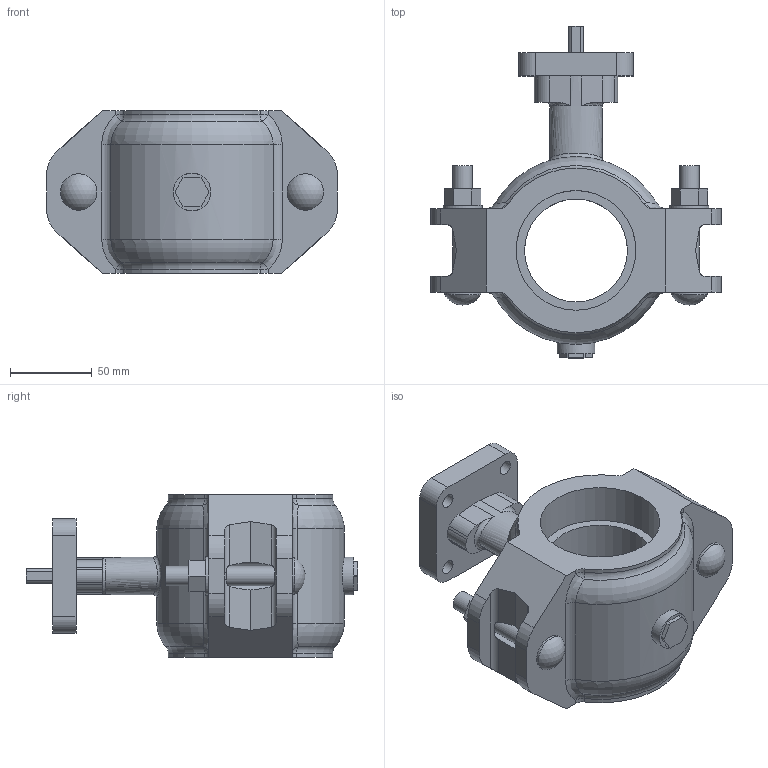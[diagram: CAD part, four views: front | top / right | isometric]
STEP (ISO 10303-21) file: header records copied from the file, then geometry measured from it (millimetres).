
FILE_DESCRIPTION(/* description */ ('VIC SS IR VALVE BUTTERFLY BARE SERIES 124 (OGS)','CAx-IF Rec.Pracs.---Representation and Presentation of Product Manufacturing Information (PMI)---4.0---2014-10-13'),/* implementation_level */ '2;1');
FILE_NAME(/* name */ 'C:\IR-124\step\Victaulic_SS-OGS_Valve Butterfly Bare_IR_Series 124 (OGS)\Victaulic_SS-OGS_Valve Butterfly Bare_IR_Series 124 (OGS)_2.5 (65).stp',/* time_stamp */ '2021-08-02T15:24:07+06:00',/* author */ ('Vjadhav'),/* organization */ ('Victaulic'),/* preprocessor_version */ 'ST-DEVELOPER v17.2',/* originating_system */ 'Autodesk Inventor 2019',/* authorisation */ '');
FILE_SCHEMA (('AP242_MANAGED_MODEL_BASED_3D_ENGINEERING_MIM_LF { 1 0 10303 442 1 1 4 }'));
Length unit declared in the file: inch
Products named in the file (1): 124-02.5
Bounding box: 177.29 x 202.44 x 99.31 mm (x, y, z)
Volume: 920939.3 mm3; surface area: 113293.5 mm2
Topology: 1 solids, 1 shells, 185 faces, 490 edges, 322 vertices
Faces by surface type: plane 91, cylinder 64, bspline 12, sphere 10, torus 8
Full cylindrical faces by diameter (mm): 8.788 x4, 11.938 x4, 22.225 x2, 22.987 x1, 23.876 x2, 62.738 x1, 73.025 x2
Entity records: 6850 total; most frequent: CARTESIAN_POINT 1840, DIRECTION 1002, ORIENTED_EDGE 980, EDGE_CURVE 490, AXIS2_PLACEMENT_3D 363, VERTEX_POINT 322, LINE 276, VECTOR 276
